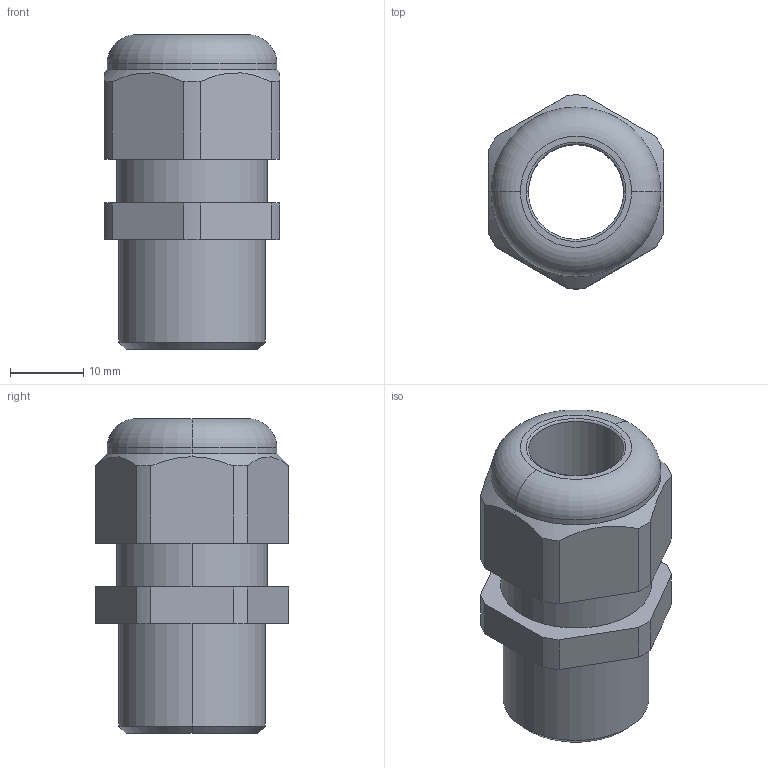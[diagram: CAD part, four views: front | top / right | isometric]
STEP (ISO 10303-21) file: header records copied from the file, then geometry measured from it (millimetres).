
FILE_DESCRIPTION (( 'STEP AP203' ), '1' );
FILE_NAME ('50.620 PA7001L.STEP', '2005-09-19T09:52:29', ( ' ' ), ( '' ), 'SwSTEP 2.0', 'SolidWorks 2005143', '' );
FILE_SCHEMA (( 'CONFIG_CONTROL_DESIGN' ));
Length unit declared in the file: millimetre
Products named in the file (1): 50.620 PA7001L
Bounding box: 24 x 26.49 x 43 mm (x, y, z)
Volume: 11238.8 mm3; surface area: 5657.7 mm2
Topology: 1 solids, 1 shells, 82 faces, 214 edges, 140 vertices
Faces by surface type: plane 54, cylinder 20, cone 4, torus 4
Entity records: 2653 total; most frequent: CARTESIAN_POINT 521, ORIENTED_EDGE 428, DIRECTION 422, EDGE_CURVE 214, VECTOR 156, LINE 156, VERTEX_POINT 140, AXIS2_PLACEMENT_3D 133
